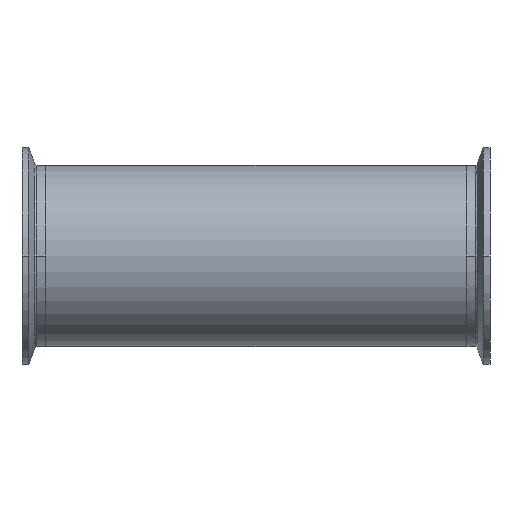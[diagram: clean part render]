
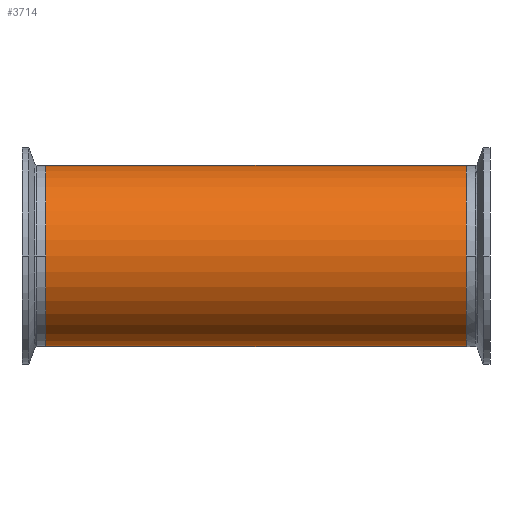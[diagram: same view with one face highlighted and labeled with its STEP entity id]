
A CAD part, front view. The second image highlights one B-rep face of the part: STEP entity #3714.
In plain terms, the highlighted cylindrical face has radius 38.1 mm (diameter 76.2 mm), a partial arc.
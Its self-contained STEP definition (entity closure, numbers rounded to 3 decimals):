
#426 = VERTEX_POINT ( 'NONE', #1433 ) ;
#599 = CARTESIAN_POINT ( 'NONE',  ( 196.163, 0., 38.1 ) ) ;
#662 = LINE ( 'NONE', #599, #1579 ) ;
#887 = CARTESIAN_POINT ( 'NONE',  ( -88.4, 0., 0. ) ) ;
#1025 = CIRCLE ( 'NONE', #4701, 38.1 ) ;
#1141 = ORIENTED_EDGE ( 'NONE', *, *, #4192, .T. ) ;
#1171 = CARTESIAN_POINT ( 'NONE',  ( 88.4, 0., 38.1 ) ) ;
#1279 = DIRECTION ( 'NONE',  ( 0., 0., 1. ) ) ;
#1396 = CARTESIAN_POINT ( 'NONE',  ( 88.4, 0., 0. ) ) ;
#1433 = CARTESIAN_POINT ( 'NONE',  ( -88.4, 0., -38.1 ) ) ;
#1579 = VECTOR ( 'NONE', #2543, 1000. ) ;
#1635 = VERTEX_POINT ( 'NONE', #3093 ) ;
#1669 = DIRECTION ( 'NONE',  ( -1., 0., 0. ) ) ;
#1788 = DIRECTION ( 'NONE',  ( 0., 0., 1. ) ) ;
#1794 = DIRECTION ( 'NONE',  ( 0., 0., 1. ) ) ;
#1869 = VERTEX_POINT ( 'NONE', #1171 ) ;
#1900 = FACE_OUTER_BOUND ( 'NONE', #3848, .T. ) ;
#1952 = VERTEX_POINT ( 'NONE', #2260 ) ;
#2028 = CYLINDRICAL_SURFACE ( 'NONE', #3772, 38.1 ) ;
#2260 = CARTESIAN_POINT ( 'NONE',  ( -88.4, 0., 38.1 ) ) ;
#2543 = DIRECTION ( 'NONE',  ( -1., 0., 0. ) ) ;
#2613 = CIRCLE ( 'NONE', #3838, 38.1 ) ;
#2955 = VECTOR ( 'NONE', #1669, 1000. ) ;
#3076 = LINE ( 'NONE', #3975, #2955 ) ;
#3093 = CARTESIAN_POINT ( 'NONE',  ( 88.4, 0., -38.1 ) ) ;
#3588 = DIRECTION ( 'NONE',  ( 1., 0., 0. ) ) ;
#3714 = ADVANCED_FACE ( 'NONE', ( #1900 ), #2028, .T. ) ;
#3772 = AXIS2_PLACEMENT_3D ( 'NONE', #4476, #4844, #1788 ) ;
#3838 = AXIS2_PLACEMENT_3D ( 'NONE', #1396, #4095, #1794 ) ;
#3848 = EDGE_LOOP ( 'NONE', ( #4435, #4749, #4521, #1141 ) ) ;
#3975 = CARTESIAN_POINT ( 'NONE',  ( 196.163, 0., -38.1 ) ) ;
#4095 = DIRECTION ( 'NONE',  ( -1., 0., 0. ) ) ;
#4192 = EDGE_CURVE ( 'NONE', #1952, #426, #1025, .T. ) ;
#4255 = EDGE_CURVE ( 'NONE', #1635, #426, #3076, .T. ) ;
#4435 = ORIENTED_EDGE ( 'NONE', *, *, #4255, .F. ) ;
#4464 = EDGE_CURVE ( 'NONE', #1869, #1952, #662, .T. ) ;
#4476 = CARTESIAN_POINT ( 'NONE',  ( 196.163, 0., 0. ) ) ;
#4503 = EDGE_CURVE ( 'NONE', #1635, #1869, #2613, .T. ) ;
#4521 = ORIENTED_EDGE ( 'NONE', *, *, #4464, .T. ) ;
#4701 = AXIS2_PLACEMENT_3D ( 'NONE', #887, #3588, #1279 ) ;
#4749 = ORIENTED_EDGE ( 'NONE', *, *, #4503, .T. ) ;
#4844 = DIRECTION ( 'NONE',  ( -1., 0., 0. ) ) ;
